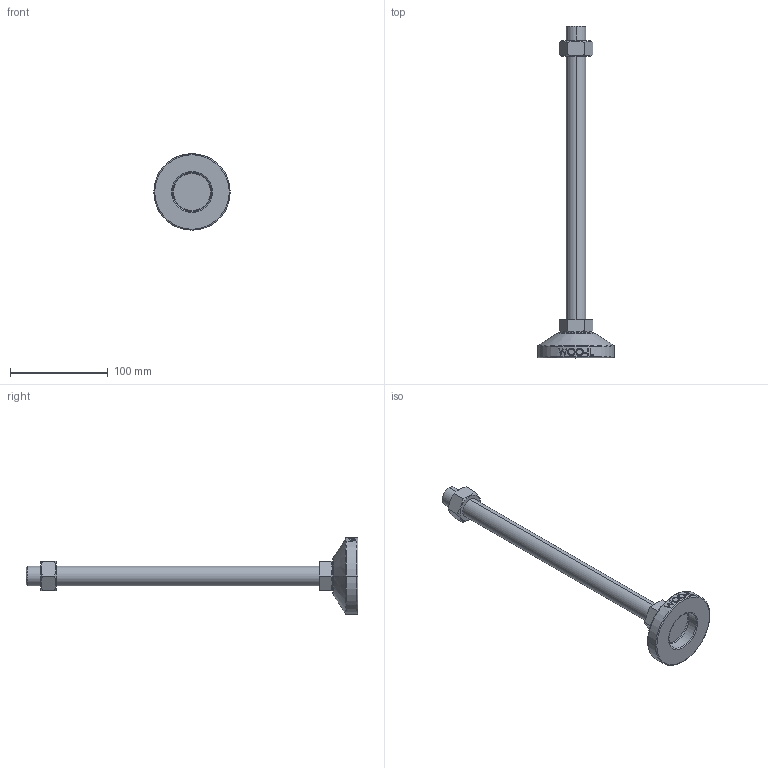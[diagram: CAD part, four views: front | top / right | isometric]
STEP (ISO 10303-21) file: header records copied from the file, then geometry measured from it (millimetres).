
FILE_DESCRIPTION (( 'STEP AP214' ), '1' );
FILE_NAME ('MF78-M20-300.step', '2021-02-03T08:21:59', ( '' ), ( '' ), 'SwSTEP 2.0', 'SolidWorks 2019', '' );
FILE_SCHEMA (( 'AUTOMOTIVE_DESIGN' ));
Length unit declared in the file: millimetre
Products named in the file (2): MF78-M20-300
Bounding box: 78 x 339 x 78 mm (x, y, z)
Volume: 191473.8 mm3; surface area: 39844 mm2
Topology: 3 solids, 3 shells, 106 faces, 243 edges, 154 vertices
Faces by surface type: plane 48, cylinder 18, bspline 16, cone 14, torus 10
Entity records: 4532 total; most frequent: CARTESIAN_POINT 2189, ORIENTED_EDGE 486, DIRECTION 439, EDGE_CURVE 243, AXIS2_PLACEMENT_3D 170, VERTEX_POINT 154, EDGE_LOOP 119, FACE_OUTER_BOUND 106
